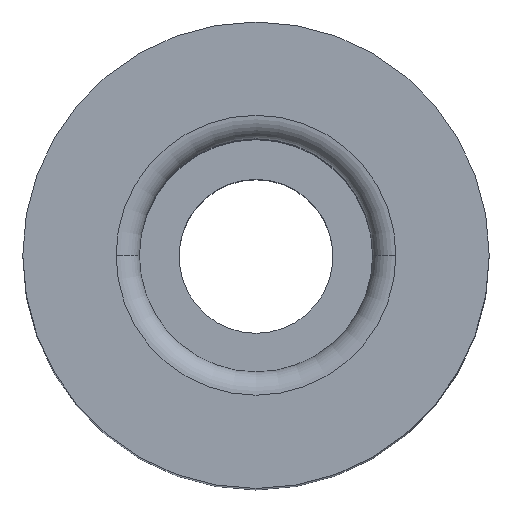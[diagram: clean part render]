
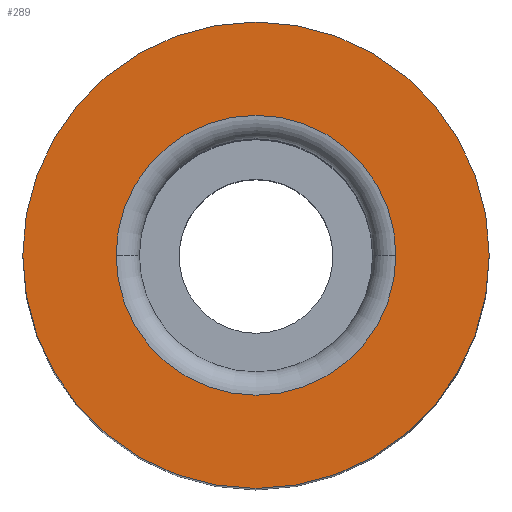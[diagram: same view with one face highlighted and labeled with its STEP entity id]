
A CAD part, top view. The second image highlights one B-rep face of the part: STEP entity #289.
In plain terms, the highlighted planar face has unit normal (0, 0, 1).
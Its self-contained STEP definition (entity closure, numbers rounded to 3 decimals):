
#31 = CIRCLE ( 'NONE', #560, 5. ) ;
#66 = DIRECTION ( 'NONE',  ( -1., 0., 0. ) ) ;
#70 = PLANE ( 'NONE',  #400 ) ;
#82 = CARTESIAN_POINT ( 'NONE',  ( 5., 0., -0.5 ) ) ;
#151 = VERTEX_POINT ( 'NONE', #552 ) ;
#162 = CARTESIAN_POINT ( 'NONE',  ( 0., 0., -0.5 ) ) ;
#193 = DIRECTION ( 'NONE',  ( -1., 0., 0. ) ) ;
#201 = CARTESIAN_POINT ( 'NONE',  ( -3., 0., -0.5 ) ) ;
#225 = CIRCLE ( 'NONE', #241, 3. ) ;
#241 = AXIS2_PLACEMENT_3D ( 'NONE', #380, #376, #243 ) ;
#243 = DIRECTION ( 'NONE',  ( -1., 0., 0. ) ) ;
#264 = EDGE_CURVE ( 'NONE', #151, #555, #337, .T. ) ;
#271 = CARTESIAN_POINT ( 'NONE',  ( 0., 0., -0.5 ) ) ;
#289 = ADVANCED_FACE ( 'NONE', ( #309, #341 ), #70, .F. ) ;
#296 = CIRCLE ( 'NONE', #394, 5. ) ;
#301 = DIRECTION ( 'NONE',  ( -1., 0., 0. ) ) ;
#309 = FACE_BOUND ( 'NONE', #453, .T. ) ;
#327 = AXIS2_PLACEMENT_3D ( 'NONE', #482, #392, #66 ) ;
#337 = CIRCLE ( 'NONE', #327, 3. ) ;
#341 = FACE_OUTER_BOUND ( 'NONE', #473, .T. ) ;
#376 = DIRECTION ( 'NONE',  ( 0., 0., -1. ) ) ;
#380 = CARTESIAN_POINT ( 'NONE',  ( 0., 0., -0.5 ) ) ;
#384 = VERTEX_POINT ( 'NONE', #82 ) ;
#387 = EDGE_CURVE ( 'NONE', #384, #412, #296, .T. ) ;
#388 = DIRECTION ( 'NONE',  ( 0., 0., -1. ) ) ;
#392 = DIRECTION ( 'NONE',  ( 0., 0., -1. ) ) ;
#393 = DIRECTION ( 'NONE',  ( -1., 0., 0. ) ) ;
#394 = AXIS2_PLACEMENT_3D ( 'NONE', #271, #574, #393 ) ;
#400 = AXIS2_PLACEMENT_3D ( 'NONE', #162, #388, #301 ) ;
#403 = CARTESIAN_POINT ( 'NONE',  ( 0., 0., -0.5 ) ) ;
#404 = DIRECTION ( 'NONE',  ( 0., 0., -1. ) ) ;
#410 = ORIENTED_EDGE ( 'NONE', *, *, #468, .F. ) ;
#412 = VERTEX_POINT ( 'NONE', #565 ) ;
#453 = EDGE_LOOP ( 'NONE', ( #485, #535 ) ) ;
#468 = EDGE_CURVE ( 'NONE', #412, #384, #31, .T. ) ;
#473 = EDGE_LOOP ( 'NONE', ( #410, #563 ) ) ;
#482 = CARTESIAN_POINT ( 'NONE',  ( 0., 0., -0.5 ) ) ;
#485 = ORIENTED_EDGE ( 'NONE', *, *, #554, .T. ) ;
#535 = ORIENTED_EDGE ( 'NONE', *, *, #264, .T. ) ;
#552 = CARTESIAN_POINT ( 'NONE',  ( 3., 0., -0.5 ) ) ;
#554 = EDGE_CURVE ( 'NONE', #555, #151, #225, .T. ) ;
#555 = VERTEX_POINT ( 'NONE', #201 ) ;
#560 = AXIS2_PLACEMENT_3D ( 'NONE', #403, #404, #193 ) ;
#563 = ORIENTED_EDGE ( 'NONE', *, *, #387, .F. ) ;
#565 = CARTESIAN_POINT ( 'NONE',  ( -5., 0., -0.5 ) ) ;
#574 = DIRECTION ( 'NONE',  ( 0., 0., -1. ) ) ;
